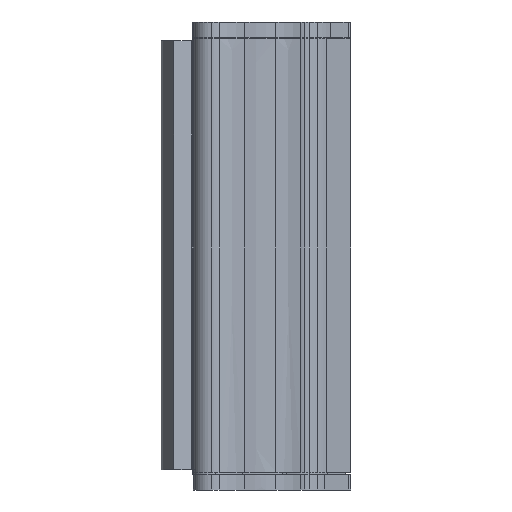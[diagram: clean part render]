
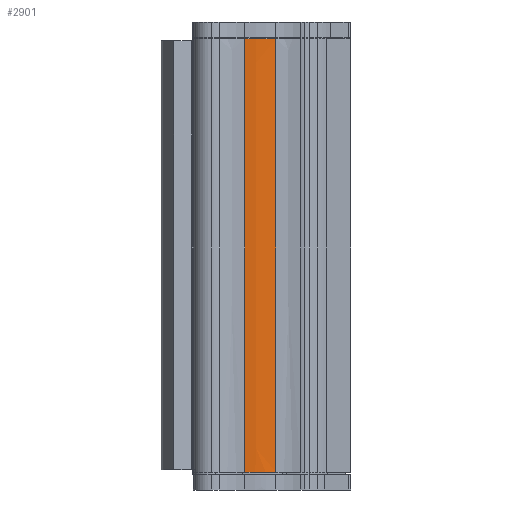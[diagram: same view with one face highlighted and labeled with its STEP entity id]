
A CAD part, left-side view. The second image highlights one B-rep face of the part: STEP entity #2901.
In plain terms, the highlighted face is a extrusion surface.
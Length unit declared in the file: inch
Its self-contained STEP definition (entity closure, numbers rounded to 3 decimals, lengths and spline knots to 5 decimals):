
#2901=ADVANCED_FACE('',(#6285),#6286,.T.);
#3447=EDGE_CURVE('',#7147,#7144,#7148,.T.);
#3713=EDGE_CURVE('',#7147,#7473,#7474,.T.);
#3717=EDGE_CURVE('',#7478,#7144,#7479,.T.);
#3719=EDGE_CURVE('',#7478,#7473,#7481,.F.);
#6285=FACE_OUTER_BOUND('',#14949,.T.);
#6286=SURFACE_OF_LINEAR_EXTRUSION('',#14950,#14951);
#7144=VERTEX_POINT('',#17045);
#7147=VERTEX_POINT('',#17055);
#7148=B_SPLINE_CURVE_WITH_KNOTS('',3,(#17056,#17057,#17058,#17059,#17060,#17061),.UNSPECIFIED.,.F.,.F.,(4,2,4),(1.47219,1.62632,1.90346),.UNSPECIFIED.);
#7473=VERTEX_POINT('',#17634);
#7474=LINE('',#17635,#17636);
#7478=VERTEX_POINT('',#17647);
#7479=LINE('',#17648,#17649);
#7481=B_SPLINE_CURVE_WITH_KNOTS('',3,(#17652,#17653,#17654,#17655,#17656,#17657,#17658,#17659,#17660,#17661),.UNSPECIFIED.,.F.,.F.,(4,3,3,4),(-1.06989,-0.99569,-0.9865,-0.83181),.UNSPECIFIED.);
#14949=EDGE_LOOP('',(#22045,#22046,#22047,#22048));
#14950=B_SPLINE_CURVE_WITH_KNOTS('',3,(#22049,#22050,#22051,#22052,#22053,#22054,#22055,#22056,#22057,#22058,#22059,#22060,#22061,#22062,#22063,#22064,#22065,#22066,#22067,#22068,#22069,#22070,#22071,#22072,#22073,#22074,#22075,#22076,#22077,#22078,#22079,#22080,#22081,#22082,#22083,#22084,#22085,#22086),.UNSPECIFIED.,.T.,.F.,(4,2,2,2,2,2,2,2,2,2,2,2,2,2,2,2,2,2,4),(0.0,0.27393,0.54786,1.09573,1.62632,2.15692,2.43646,2.71601,2.99555,3.2751,3.49296,3.71083,4.14657,4.5823,5.01804,5.52131,5.90225,6.09272,6.28319),.UNSPECIFIED.);
#14951=VECTOR('',#22087,1.0);
#17045=CARTESIAN_POINT('',(-0.41152,-0.19375,-11.14173));
#17055=CARTESIAN_POINT('',(-0.4312,0.04741,-11.14173));
#17056=CARTESIAN_POINT('',(-0.4312,0.04741,-11.14173));
#17057=CARTESIAN_POINT('',(-0.43319,0.01843,-11.14173));
#17058=CARTESIAN_POINT('',(-0.43364,-0.01072,-11.14173));
#17059=CARTESIAN_POINT('',(-0.43052,-0.092,-11.14173));
#17060=CARTESIAN_POINT('',(-0.42344,-0.14387,-11.14173));
#17061=CARTESIAN_POINT('',(-0.41152,-0.19375,-11.14173));
#17634=CARTESIAN_POINT('',(-0.4312,0.04741,-7.78723));
#17635=CARTESIAN_POINT('',(-0.4312,0.04741,-11.14173));
#17636=VECTOR('',#23608,1.0);
#17647=CARTESIAN_POINT('',(-0.41152,-0.19375,-7.78723));
#17648=CARTESIAN_POINT('',(-0.41152,-0.19375,0.));
#17649=VECTOR('',#23609,1.0);
#17652=CARTESIAN_POINT('',(-0.4312,0.04741,-7.78723));
#17653=CARTESIAN_POINT('',(-0.43298,0.02149,-7.78723));
#17654=CARTESIAN_POINT('',(-0.43352,-0.0046,-7.78723));
#17655=CARTESIAN_POINT('',(-0.43284,-0.03025,-7.78723));
#17656=CARTESIAN_POINT('',(-0.43275,-0.03343,-7.78723));
#17657=CARTESIAN_POINT('',(-0.43265,-0.0366,-7.78723));
#17658=CARTESIAN_POINT('',(-0.43253,-0.03977,-7.78723));
#17659=CARTESIAN_POINT('',(-0.43048,-0.09308,-7.78723));
#17660=CARTESIAN_POINT('',(-0.42319,-0.14491,-7.78723));
#17661=CARTESIAN_POINT('',(-0.41152,-0.19375,-7.78723));
#22045=ORIENTED_EDGE('',*,*,#3447,.T.);
#22046=ORIENTED_EDGE('',*,*,#3717,.F.);
#22047=ORIENTED_EDGE('',*,*,#3719,.T.);
#22048=ORIENTED_EDGE('',*,*,#3713,.F.);
#22049=CARTESIAN_POINT('',(-0.00006,0.58221,-11.81102));
#22050=CARTESIAN_POINT('',(-0.04283,0.58221,-11.81102));
#22051=CARTESIAN_POINT('',(-0.08549,0.5736,-11.81102));
#22052=CARTESIAN_POINT('',(-0.16556,0.5411,-11.81102));
#22053=CARTESIAN_POINT('',(-0.203,0.51732,-11.81102));
#22054=CARTESIAN_POINT('',(-0.30404,0.42827,-11.81102));
#22055=CARTESIAN_POINT('',(-0.35599,0.34581,-11.81102));
#22056=CARTESIAN_POINT('',(-0.42162,0.16151,-11.81102));
#22057=CARTESIAN_POINT('',(-0.43637,0.06022,-11.81102));
#22058=CARTESIAN_POINT('',(-0.42868,-0.13976,-11.81102));
#22059=CARTESIAN_POINT('',(-0.40626,-0.23846,-11.81102));
#22060=CARTESIAN_POINT('',(-0.346,-0.36956,-11.81102));
#22061=CARTESIAN_POINT('',(-0.32054,-0.41122,-11.81102));
#22062=CARTESIAN_POINT('',(-0.26106,-0.48435,-11.81102));
#22063=CARTESIAN_POINT('',(-0.22701,-0.51579,-11.81102));
#22064=CARTESIAN_POINT('',(-0.15195,-0.56494,-11.81102));
#22065=CARTESIAN_POINT('',(-0.11076,-0.58263,-11.81102));
#22066=CARTESIAN_POINT('',(-0.02521,-0.60081,-11.81102));
#22067=CARTESIAN_POINT('',(0.01917,-0.60122,-11.81102));
#22068=CARTESIAN_POINT('',(0.09555,-0.58641,-11.81102));
#22069=CARTESIAN_POINT('',(0.12811,-0.57468,-11.81102));
#22070=CARTESIAN_POINT('',(0.18937,-0.54224,-11.81102));
#22071=CARTESIAN_POINT('',(0.21808,-0.52156,-11.81102));
#22072=CARTESIAN_POINT('',(0.29694,-0.44867,-11.81102));
#22073=CARTESIAN_POINT('',(0.33968,-0.38594,-11.81102));
#22074=CARTESIAN_POINT('',(0.40258,-0.24289,-11.81102));
#22075=CARTESIAN_POINT('',(0.42231,-0.16342,-11.81102));
#22076=CARTESIAN_POINT('',(0.43709,-0.00024,-11.81102));
#22077=CARTESIAN_POINT('',(0.43203,0.08348,-11.81102));
#22078=CARTESIAN_POINT('',(0.39484,0.25372,-11.81102));
#22079=CARTESIAN_POINT('',(0.35866,0.33878,-11.81102));
#22080=CARTESIAN_POINT('',(0.2701,0.4608,-11.81102));
#22081=CARTESIAN_POINT('',(0.22373,0.5045,-11.81102));
#22082=CARTESIAN_POINT('',(0.1448,0.55016,-11.81102));
#22083=CARTESIAN_POINT('',(0.11692,0.56206,-11.81102));
#22084=CARTESIAN_POINT('',(0.05937,0.57809,-11.81102));
#22085=CARTESIAN_POINT('',(0.02968,0.58221,-11.81102));
#22086=CARTESIAN_POINT('',(-0.00006,0.58221,-11.81102));
#22087=DIRECTION('',(0.0,0.0,1.0));
#23608=DIRECTION('',(0.,0.,1.0));
#23609=DIRECTION('',(0.0,0.,-1.0));
